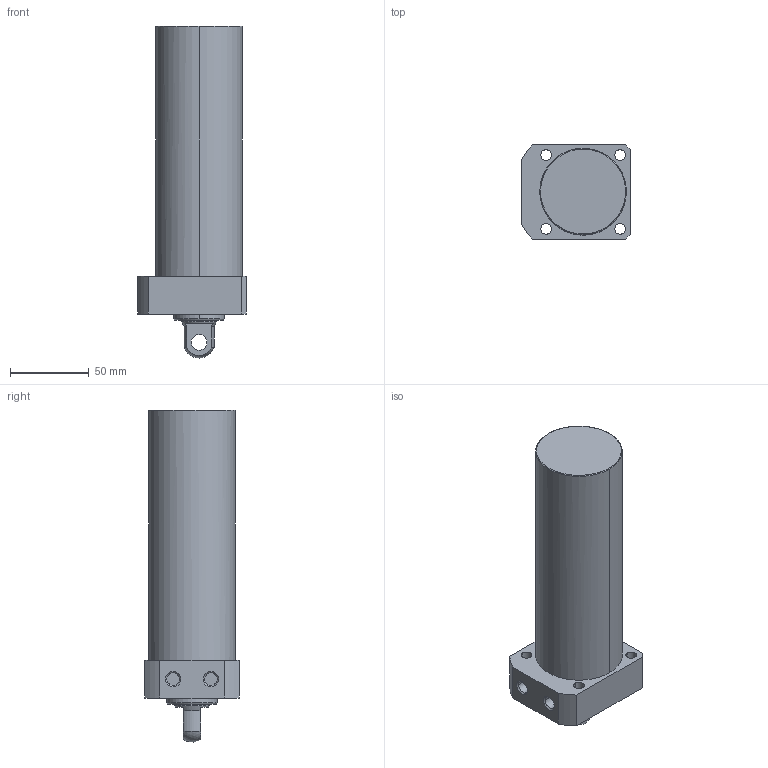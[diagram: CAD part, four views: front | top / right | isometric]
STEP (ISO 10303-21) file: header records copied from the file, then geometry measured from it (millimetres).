
FILE_DESCRIPTION((' '),'2;1');
FILE_NAME( 'TLLR-055CP-130.STEP.stp', '2025-10-24T16:34:52', (' '), ('--- Datakit www.datakit.com---'), ' Datakit CrossCadWare V2024.1 Dec 21 2023', 'Mastercam 2025', ' ');
FILE_SCHEMA(('AUTOMOTIVE_DESIGN { 1 0 10303 214 1 1 1 1 }'));
Length unit declared in the file: millimetre
Products named in the file (1): TLLR-055CP-130
Bounding box: 69 x 60 x 210.93 mm (x, y, z)
Volume: 477280.7 mm3; surface area: 45691.3 mm2
Topology: 1 solids, 1 shells, 57 faces, 164 edges, 116 vertices
Faces by surface type: cylinder 28, plane 18, cone 8, torus 2, sphere 1
Entity records: 2006 total; most frequent: DIRECTION 378, CARTESIAN_POINT 350, ORIENTED_EDGE 328, EDGE_CURVE 164, AXIS2_PLACEMENT_3D 160, VERTEX_POINT 116, CIRCLE 102, EDGE_LOOP 74
